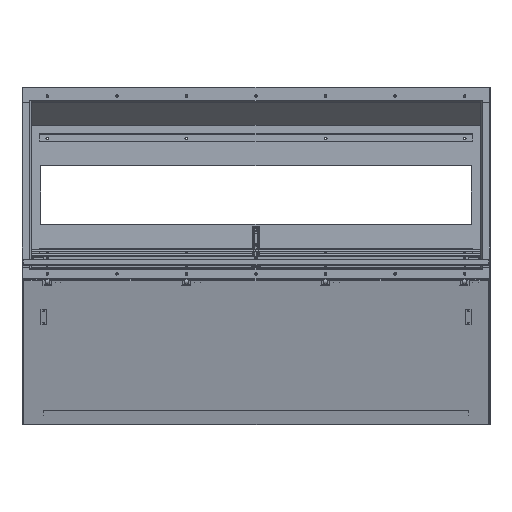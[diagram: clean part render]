
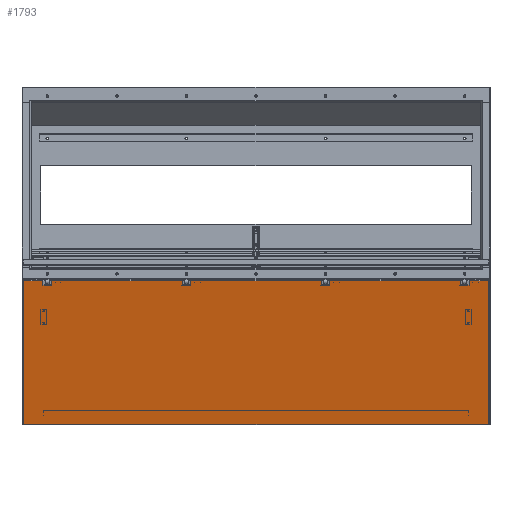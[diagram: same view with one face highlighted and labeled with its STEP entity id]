
A CAD part, top view. The second image highlights one B-rep face of the part: STEP entity #1793.
In plain terms, the highlighted planar face has unit normal (0, -0.208, 0.978) as drawn and (0, -1, 0) by its records, which use the part's own axes.
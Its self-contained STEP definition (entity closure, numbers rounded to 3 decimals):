
#1793 = ADVANCED_FACE( '', ( #2674 ), #2675, .T. );
#2674 = FACE_OUTER_BOUND( '', #4375, .T. );
#2675 = PLANE( '', #4376 );
#4375 = EDGE_LOOP( '', ( #7521, #7522, #7523, #7524, #7525, #7526, #7527, #7528, #7529, #7530, #7531, #7532, #7533, #7534, #7535, #7536, #7537, #7538, #7539, #7540 ) );
#4376 = AXIS2_PLACEMENT_3D( '', #7541, #7542, #7543 );
#7521 = ORIENTED_EDGE( '', *, *, #13027, .T. );
#7522 = ORIENTED_EDGE( '', *, *, #13028, .T. );
#7523 = ORIENTED_EDGE( '', *, *, #13029, .T. );
#7524 = ORIENTED_EDGE( '', *, *, #13030, .F. );
#7525 = ORIENTED_EDGE( '', *, *, #13031, .T. );
#7526 = ORIENTED_EDGE( '', *, *, #13032, .T. );
#7527 = ORIENTED_EDGE( '', *, *, #13033, .T. );
#7528 = ORIENTED_EDGE( '', *, *, #13034, .T. );
#7529 = ORIENTED_EDGE( '', *, *, #13035, .T. );
#7530 = ORIENTED_EDGE( '', *, *, #13036, .T. );
#7531 = ORIENTED_EDGE( '', *, *, #13037, .T. );
#7532 = ORIENTED_EDGE( '', *, *, #13038, .T. );
#7533 = ORIENTED_EDGE( '', *, *, #13039, .T. );
#7534 = ORIENTED_EDGE( '', *, *, #13040, .T. );
#7535 = ORIENTED_EDGE( '', *, *, #13041, .T. );
#7536 = ORIENTED_EDGE( '', *, *, #13042, .T. );
#7537 = ORIENTED_EDGE( '', *, *, #13043, .T. );
#7538 = ORIENTED_EDGE( '', *, *, #13044, .T. );
#7539 = ORIENTED_EDGE( '', *, *, #13045, .T. );
#7540 = ORIENTED_EDGE( '', *, *, #13046, .T. );
#7541 = CARTESIAN_POINT( '', ( -758.825, 0., -241.3 ) );
#7542 = DIRECTION( '', ( 0., -1., 0. ) );
#7543 = DIRECTION( '', ( 0., 0., -1. ) );
#13027 = EDGE_CURVE( '', #14989, #14990, #14991, .T. );
#13028 = EDGE_CURVE( '', #14990, #14992, #14993, .T. );
#13029 = EDGE_CURVE( '', #14992, #14994, #14995, .T. );
#13030 = EDGE_CURVE( '', #14996, #14994, #14997, .T. );
#13031 = EDGE_CURVE( '', #14996, #14998, #14999, .T. );
#13032 = EDGE_CURVE( '', #14998, #15000, #15001, .T. );
#13033 = EDGE_CURVE( '', #15000, #15002, #15003, .T. );
#13034 = EDGE_CURVE( '', #15002, #15004, #15005, .T. );
#13035 = EDGE_CURVE( '', #15004, #15006, #15007, .T. );
#13036 = EDGE_CURVE( '', #15006, #15008, #15009, .T. );
#13037 = EDGE_CURVE( '', #15008, #15010, #15011, .T. );
#13038 = EDGE_CURVE( '', #15010, #15012, #15013, .T. );
#13039 = EDGE_CURVE( '', #15012, #15014, #15015, .T. );
#13040 = EDGE_CURVE( '', #15014, #15016, #15017, .T. );
#13041 = EDGE_CURVE( '', #15016, #15018, #15019, .T. );
#13042 = EDGE_CURVE( '', #15018, #15020, #15021, .T. );
#13043 = EDGE_CURVE( '', #15020, #15022, #15023, .T. );
#13044 = EDGE_CURVE( '', #15022, #15024, #15025, .T. );
#13045 = EDGE_CURVE( '', #15024, #15026, #15027, .T. );
#13046 = EDGE_CURVE( '', #15026, #14989, #15028, .T. );
#14989 = VERTEX_POINT( '', #18146 );
#14990 = VERTEX_POINT( '', #18147 );
#14991 = LINE( '', #18148, #18149 );
#14992 = VERTEX_POINT( '', #18150 );
#14993 = LINE( '', #18151, #18152 );
#14994 = VERTEX_POINT( '', #18153 );
#14995 = LINE( '', #18154, #18155 );
#14996 = VERTEX_POINT( '', #18156 );
#14997 = LINE( '', #18157, #18158 );
#14998 = VERTEX_POINT( '', #18159 );
#14999 = LINE( '', #18160, #18161 );
#15000 = VERTEX_POINT( '', #18162 );
#15001 = LINE( '', #18163, #18164 );
#15002 = VERTEX_POINT( '', #18165 );
#15003 = LINE( '', #18166, #18167 );
#15004 = VERTEX_POINT( '', #18168 );
#15005 = LINE( '', #18169, #18170 );
#15006 = VERTEX_POINT( '', #18171 );
#15007 = LINE( '', #18172, #18173 );
#15008 = VERTEX_POINT( '', #18174 );
#15009 = LINE( '', #18175, #18176 );
#15010 = VERTEX_POINT( '', #18177 );
#15011 = LINE( '', #18178, #18179 );
#15012 = VERTEX_POINT( '', #18180 );
#15013 = LINE( '', #18181, #18182 );
#15014 = VERTEX_POINT( '', #18183 );
#15015 = LINE( '', #18184, #18185 );
#15016 = VERTEX_POINT( '', #18186 );
#15017 = LINE( '', #18187, #18188 );
#15018 = VERTEX_POINT( '', #18189 );
#15019 = LINE( '', #18190, #18191 );
#15020 = VERTEX_POINT( '', #18192 );
#15021 = LINE( '', #18193, #18194 );
#15022 = VERTEX_POINT( '', #18195 );
#15023 = LINE( '', #18196, #18197 );
#15024 = VERTEX_POINT( '', #18198 );
#15025 = LINE( '', #18199, #18200 );
#15026 = VERTEX_POINT( '', #18201 );
#15027 = LINE( '', #18202, #18203 );
#15028 = LINE( '', #18204, #18205 );
#18146 = CARTESIAN_POINT( '', ( 689.458, 0., -227.013 ) );
#18147 = CARTESIAN_POINT( '', ( 689.458, 0., -238.557 ) );
#18148 = CARTESIAN_POINT( '', ( 689.458, 0., -241.3 ) );
#18149 = VECTOR( '', #22938, 1000. );
#18150 = CARTESIAN_POINT( '', ( 756.082, 0., -238.557 ) );
#18151 = CARTESIAN_POINT( '', ( -756.082, 0., -238.557 ) );
#18152 = VECTOR( '', #22939, 1000. );
#18153 = CARTESIAN_POINT( '', ( 756.082, 0., 238.557 ) );
#18154 = CARTESIAN_POINT( '', ( 756.082, 0., -238.557 ) );
#18155 = VECTOR( '', #22940, 1000. );
#18156 = CARTESIAN_POINT( '', ( -756.082, 0., 238.557 ) );
#18157 = CARTESIAN_POINT( '', ( -756.082, 0., 238.557 ) );
#18158 = VECTOR( '', #22941, 1000. );
#18159 = CARTESIAN_POINT( '', ( -756.082, 0., -238.557 ) );
#18160 = CARTESIAN_POINT( '', ( -756.082, 0., 238.557 ) );
#18161 = VECTOR( '', #22942, 1000. );
#18162 = CARTESIAN_POINT( '', ( -689.483, 0., -238.557 ) );
#18163 = CARTESIAN_POINT( '', ( -756.082, 0., -238.557 ) );
#18164 = VECTOR( '', #22943, 1000. );
#18165 = CARTESIAN_POINT( '', ( -689.483, 0., -227.013 ) );
#18166 = CARTESIAN_POINT( '', ( -689.483, 0., -241.3 ) );
#18167 = VECTOR( '', #22944, 1000. );
#18168 = CARTESIAN_POINT( '', ( -669.417, 0., -227.013 ) );
#18169 = CARTESIAN_POINT( '', ( -758.825, 0., -227.013 ) );
#18170 = VECTOR( '', #22945, 1000. );
#18171 = CARTESIAN_POINT( '', ( -669.417, 0., -238.557 ) );
#18172 = CARTESIAN_POINT( '', ( -669.417, 0., -241.3 ) );
#18173 = VECTOR( '', #22946, 1000. );
#18174 = CARTESIAN_POINT( '', ( -236.525, 0., -238.557 ) );
#18175 = CARTESIAN_POINT( '', ( -756.082, 0., -238.557 ) );
#18176 = VECTOR( '', #22947, 1000. );
#18177 = CARTESIAN_POINT( '', ( -236.525, 0., -227.013 ) );
#18178 = CARTESIAN_POINT( '', ( -236.525, 0., -241.3 ) );
#18179 = VECTOR( '', #22948, 1000. );
#18180 = CARTESIAN_POINT( '', ( -216.459, 0., -227.013 ) );
#18181 = CARTESIAN_POINT( '', ( -758.825, 0., -227.013 ) );
#18182 = VECTOR( '', #22949, 1000. );
#18183 = CARTESIAN_POINT( '', ( -216.459, 0., -238.557 ) );
#18184 = CARTESIAN_POINT( '', ( -216.459, 0., -241.3 ) );
#18185 = VECTOR( '', #22950, 1000. );
#18186 = CARTESIAN_POINT( '', ( 216.433, 0., -238.557 ) );
#18187 = CARTESIAN_POINT( '', ( -756.082, 0., -238.557 ) );
#18188 = VECTOR( '', #22951, 1000. );
#18189 = CARTESIAN_POINT( '', ( 216.433, 0., -227.013 ) );
#18190 = CARTESIAN_POINT( '', ( 216.433, 0., -241.3 ) );
#18191 = VECTOR( '', #22952, 1000. );
#18192 = CARTESIAN_POINT( '', ( 236.499, 0., -227.013 ) );
#18193 = CARTESIAN_POINT( '', ( -758.825, 0., -227.013 ) );
#18194 = VECTOR( '', #22953, 1000. );
#18195 = CARTESIAN_POINT( '', ( 236.499, 0., -238.557 ) );
#18196 = CARTESIAN_POINT( '', ( 236.499, 0., -241.3 ) );
#18197 = VECTOR( '', #22954, 1000. );
#18198 = CARTESIAN_POINT( '', ( 669.392, 0., -238.557 ) );
#18199 = CARTESIAN_POINT( '', ( -756.082, 0., -238.557 ) );
#18200 = VECTOR( '', #22955, 1000. );
#18201 = CARTESIAN_POINT( '', ( 669.392, 0., -227.013 ) );
#18202 = CARTESIAN_POINT( '', ( 669.392, 0., -241.3 ) );
#18203 = VECTOR( '', #22956, 1000. );
#18204 = CARTESIAN_POINT( '', ( -758.825, 0., -227.013 ) );
#18205 = VECTOR( '', #22957, 1000. );
#22938 = DIRECTION( '', ( 0., 0., -1. ) );
#22939 = DIRECTION( '', ( 1., 0., 0. ) );
#22940 = DIRECTION( '', ( 0., 0., 1. ) );
#22941 = DIRECTION( '', ( 1., 0., 0. ) );
#22942 = DIRECTION( '', ( 0., 0., -1. ) );
#22943 = DIRECTION( '', ( 1., 0., 0. ) );
#22944 = DIRECTION( '', ( 0., 0., 1. ) );
#22945 = DIRECTION( '', ( 1., 0., 0. ) );
#22946 = DIRECTION( '', ( 0., 0., -1. ) );
#22947 = DIRECTION( '', ( 1., 0., 0. ) );
#22948 = DIRECTION( '', ( 0., 0., 1. ) );
#22949 = DIRECTION( '', ( 1., 0., 0. ) );
#22950 = DIRECTION( '', ( 0., 0., -1. ) );
#22951 = DIRECTION( '', ( 1., 0., 0. ) );
#22952 = DIRECTION( '', ( 0., 0., 1. ) );
#22953 = DIRECTION( '', ( 1., 0., 0. ) );
#22954 = DIRECTION( '', ( 0., 0., -1. ) );
#22955 = DIRECTION( '', ( 1., 0., 0. ) );
#22956 = DIRECTION( '', ( 0., 0., 1. ) );
#22957 = DIRECTION( '', ( 1., 0., 0. ) );
